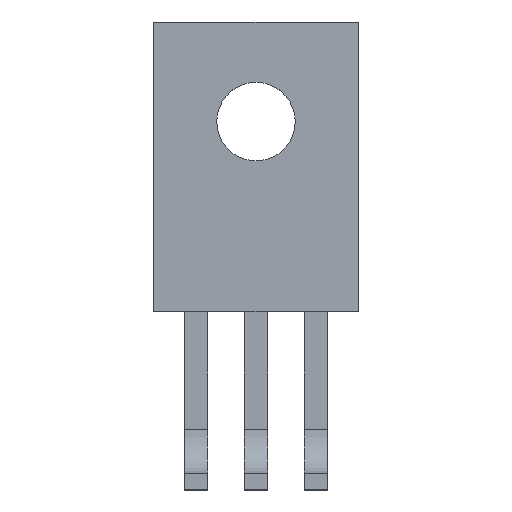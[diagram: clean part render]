
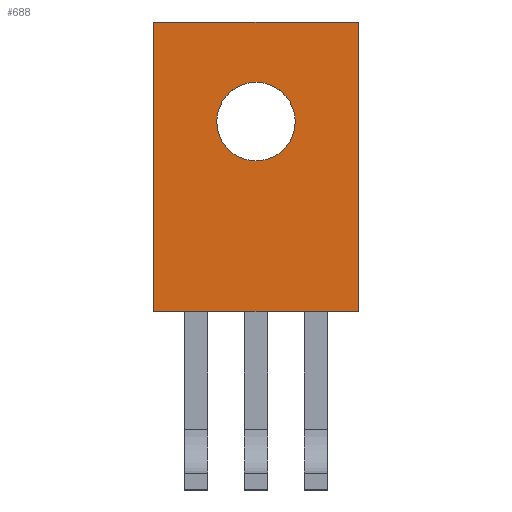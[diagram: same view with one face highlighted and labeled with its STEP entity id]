
A CAD part, top view. The second image highlights one B-rep face of the part: STEP entity #688.
In plain terms, the highlighted planar face has unit normal (0, 0, 1).
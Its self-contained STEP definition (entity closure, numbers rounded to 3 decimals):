
#499 = VERTEX_POINT('',#500);
#500 = CARTESIAN_POINT('',(-6.18,17.55,-4.9));
#507 = PLANE('',#508);
#508 = AXIS2_PLACEMENT_3D('',#509,#510,#511);
#509 = CARTESIAN_POINT('',(-6.18,17.55,-7.8));
#510 = DIRECTION('',(1.,0.,-0.));
#511 = DIRECTION('',(0.,0.,-1.));
#519 = PLANE('',#520);
#520 = AXIS2_PLACEMENT_3D('',#521,#522,#523);
#521 = CARTESIAN_POINT('',(-6.18,17.55,-7.8));
#522 = DIRECTION('',(0.,-1.,0.));
#523 = DIRECTION('',(0.,0.,-1.));
#560 = VERTEX_POINT('',#561);
#561 = CARTESIAN_POINT('',(-6.18,6.5,-4.9));
#575 = PLANE('',#576);
#576 = AXIS2_PLACEMENT_3D('',#577,#578,#579);
#577 = CARTESIAN_POINT('',(-6.18,6.5,-7.8));
#578 = DIRECTION('',(0.,-1.,0.));
#579 = DIRECTION('',(0.,0.,-1.));
#587 = EDGE_CURVE('',#499,#560,#588,.T.);
#588 = SURFACE_CURVE('',#589,(#593,#600),.PCURVE_S1.);
#589 = LINE('',#590,#591);
#590 = CARTESIAN_POINT('',(-6.18,17.55,-4.9));
#591 = VECTOR('',#592,1.);
#592 = DIRECTION('',(0.,-1.,0.));
#593 = PCURVE('',#507,#594);
#594 = DEFINITIONAL_REPRESENTATION('',(#595),#599);
#595 = LINE('',#596,#597);
#596 = CARTESIAN_POINT('',(-2.9,0.));
#597 = VECTOR('',#598,1.);
#598 = DIRECTION('',(-0.,-1.));
#599 = ( GEOMETRIC_REPRESENTATION_CONTEXT(2) 
PARAMETRIC_REPRESENTATION_CONTEXT() REPRESENTATION_CONTEXT('2D SPACE',''
  ) );
#600 = PCURVE('',#601,#606);
#601 = PLANE('',#602);
#602 = AXIS2_PLACEMENT_3D('',#603,#604,#605);
#603 = CARTESIAN_POINT('',(-6.18,17.55,-4.9));
#604 = DIRECTION('',(0.,0.,1.));
#605 = DIRECTION('',(-1.,0.,0.));
#606 = DEFINITIONAL_REPRESENTATION('',(#607),#611);
#607 = LINE('',#608,#609);
#608 = CARTESIAN_POINT('',(-0.,-0.));
#609 = VECTOR('',#610,1.);
#610 = DIRECTION('',(-0.,1.));
#611 = ( GEOMETRIC_REPRESENTATION_CONTEXT(2) 
PARAMETRIC_REPRESENTATION_CONTEXT() REPRESENTATION_CONTEXT('2D SPACE',''
  ) );
#640 = EDGE_CURVE('',#499,#641,#643,.T.);
#641 = VERTEX_POINT('',#642);
#642 = CARTESIAN_POINT('',(1.62,17.55,-4.9));
#643 = SURFACE_CURVE('',#644,(#648,#655),.PCURVE_S1.);
#644 = LINE('',#645,#646);
#645 = CARTESIAN_POINT('',(-6.18,17.55,-4.9));
#646 = VECTOR('',#647,1.);
#647 = DIRECTION('',(1.,0.,-0.));
#648 = PCURVE('',#519,#649);
#649 = DEFINITIONAL_REPRESENTATION('',(#650),#654);
#650 = LINE('',#651,#652);
#651 = CARTESIAN_POINT('',(-2.9,0.));
#652 = VECTOR('',#653,1.);
#653 = DIRECTION('',(-0.,1.));
#654 = ( GEOMETRIC_REPRESENTATION_CONTEXT(2) 
PARAMETRIC_REPRESENTATION_CONTEXT() REPRESENTATION_CONTEXT('2D SPACE',''
  ) );
#655 = PCURVE('',#601,#656);
#656 = DEFINITIONAL_REPRESENTATION('',(#657),#661);
#657 = LINE('',#658,#659);
#658 = CARTESIAN_POINT('',(-0.,-0.));
#659 = VECTOR('',#660,1.);
#660 = DIRECTION('',(-1.,0.));
#661 = ( GEOMETRIC_REPRESENTATION_CONTEXT(2) 
PARAMETRIC_REPRESENTATION_CONTEXT() REPRESENTATION_CONTEXT('2D SPACE',''
  ) );
#677 = PLANE('',#678);
#678 = AXIS2_PLACEMENT_3D('',#679,#680,#681);
#679 = CARTESIAN_POINT('',(1.62,17.55,-7.8));
#680 = DIRECTION('',(1.,0.,-0.));
#681 = DIRECTION('',(0.,0.,-1.));
#688 = ADVANCED_FACE('',(#689,#737),#601,.T.);
#689 = FACE_BOUND('',#690,.F.);
#690 = EDGE_LOOP('',(#691,#692,#693,#716));
#691 = ORIENTED_EDGE('',*,*,#587,.F.);
#692 = ORIENTED_EDGE('',*,*,#640,.T.);
#693 = ORIENTED_EDGE('',*,*,#694,.T.);
#694 = EDGE_CURVE('',#641,#695,#697,.T.);
#695 = VERTEX_POINT('',#696);
#696 = CARTESIAN_POINT('',(1.62,6.5,-4.9));
#697 = SURFACE_CURVE('',#698,(#702,#709),.PCURVE_S1.);
#698 = LINE('',#699,#700);
#699 = CARTESIAN_POINT('',(1.62,17.55,-4.9));
#700 = VECTOR('',#701,1.);
#701 = DIRECTION('',(0.,-1.,0.));
#702 = PCURVE('',#601,#703);
#703 = DEFINITIONAL_REPRESENTATION('',(#704),#708);
#704 = LINE('',#705,#706);
#705 = CARTESIAN_POINT('',(-7.8,-0.));
#706 = VECTOR('',#707,1.);
#707 = DIRECTION('',(-0.,1.));
#708 = ( GEOMETRIC_REPRESENTATION_CONTEXT(2) 
PARAMETRIC_REPRESENTATION_CONTEXT() REPRESENTATION_CONTEXT('2D SPACE',''
  ) );
#709 = PCURVE('',#677,#710);
#710 = DEFINITIONAL_REPRESENTATION('',(#711),#715);
#711 = LINE('',#712,#713);
#712 = CARTESIAN_POINT('',(-2.9,0.));
#713 = VECTOR('',#714,1.);
#714 = DIRECTION('',(-0.,-1.));
#715 = ( GEOMETRIC_REPRESENTATION_CONTEXT(2) 
PARAMETRIC_REPRESENTATION_CONTEXT() REPRESENTATION_CONTEXT('2D SPACE',''
  ) );
#716 = ORIENTED_EDGE('',*,*,#717,.F.);
#717 = EDGE_CURVE('',#560,#695,#718,.T.);
#718 = SURFACE_CURVE('',#719,(#723,#730),.PCURVE_S1.);
#719 = LINE('',#720,#721);
#720 = CARTESIAN_POINT('',(-6.18,6.5,-4.9));
#721 = VECTOR('',#722,1.);
#722 = DIRECTION('',(1.,0.,-0.));
#723 = PCURVE('',#601,#724);
#724 = DEFINITIONAL_REPRESENTATION('',(#725),#729);
#725 = LINE('',#726,#727);
#726 = CARTESIAN_POINT('',(-0.,11.05));
#727 = VECTOR('',#728,1.);
#728 = DIRECTION('',(-1.,0.));
#729 = ( GEOMETRIC_REPRESENTATION_CONTEXT(2) 
PARAMETRIC_REPRESENTATION_CONTEXT() REPRESENTATION_CONTEXT('2D SPACE',''
  ) );
#730 = PCURVE('',#575,#731);
#731 = DEFINITIONAL_REPRESENTATION('',(#732),#736);
#732 = LINE('',#733,#734);
#733 = CARTESIAN_POINT('',(-2.9,0.));
#734 = VECTOR('',#735,1.);
#735 = DIRECTION('',(-0.,1.));
#736 = ( GEOMETRIC_REPRESENTATION_CONTEXT(2) 
PARAMETRIC_REPRESENTATION_CONTEXT() REPRESENTATION_CONTEXT('2D SPACE',''
  ) );
#737 = FACE_BOUND('',#738,.F.);
#738 = EDGE_LOOP('',(#739));
#739 = ORIENTED_EDGE('',*,*,#740,.F.);
#740 = EDGE_CURVE('',#741,#741,#743,.T.);
#741 = VERTEX_POINT('',#742);
#742 = CARTESIAN_POINT('',(-0.78,13.75,-4.9));
#743 = SURFACE_CURVE('',#744,(#749,#760),.PCURVE_S1.);
#744 = CIRCLE('',#745,1.5);
#745 = AXIS2_PLACEMENT_3D('',#746,#747,#748);
#746 = CARTESIAN_POINT('',(-2.28,13.75,-4.9));
#747 = DIRECTION('',(0.,0.,-1.));
#748 = DIRECTION('',(1.,-0.,-0.));
#749 = PCURVE('',#601,#750);
#750 = DEFINITIONAL_REPRESENTATION('',(#751),#759);
#751 = ( BOUNDED_CURVE() B_SPLINE_CURVE(2,(#752,#753,#754,#755,#756,#757
,#758),.UNSPECIFIED.,.T.,.F.) B_SPLINE_CURVE_WITH_KNOTS((1,2,2,2,2,1),(
    -2.094,0.,2.094,4.189,6.283,
8.378),.UNSPECIFIED.) CURVE() GEOMETRIC_REPRESENTATION_ITEM() 
RATIONAL_B_SPLINE_CURVE((1.,0.5,1.,0.5,1.,0.5,1.)) REPRESENTATION_ITEM(
  '') );
#752 = CARTESIAN_POINT('',(-5.4,3.8));
#753 = CARTESIAN_POINT('',(-5.4,6.398));
#754 = CARTESIAN_POINT('',(-3.15,5.099));
#755 = CARTESIAN_POINT('',(-0.9,3.8));
#756 = CARTESIAN_POINT('',(-3.15,2.501));
#757 = CARTESIAN_POINT('',(-5.4,1.202));
#758 = CARTESIAN_POINT('',(-5.4,3.8));
#759 = ( GEOMETRIC_REPRESENTATION_CONTEXT(2) 
PARAMETRIC_REPRESENTATION_CONTEXT() REPRESENTATION_CONTEXT('2D SPACE',''
  ) );
#760 = PCURVE('',#761,#766);
#761 = CYLINDRICAL_SURFACE('',#762,1.5);
#762 = AXIS2_PLACEMENT_3D('',#763,#764,#765);
#763 = CARTESIAN_POINT('',(-2.28,13.75,-8.));
#764 = DIRECTION('',(-0.,-0.,1.));
#765 = DIRECTION('',(1.,-0.,-0.));
#766 = DEFINITIONAL_REPRESENTATION('',(#767),#771);
#767 = LINE('',#768,#769);
#768 = CARTESIAN_POINT('',(-0.,3.1));
#769 = VECTOR('',#770,1.);
#770 = DIRECTION('',(-1.,0.));
#771 = ( GEOMETRIC_REPRESENTATION_CONTEXT(2) 
PARAMETRIC_REPRESENTATION_CONTEXT() REPRESENTATION_CONTEXT('2D SPACE',''
  ) );
